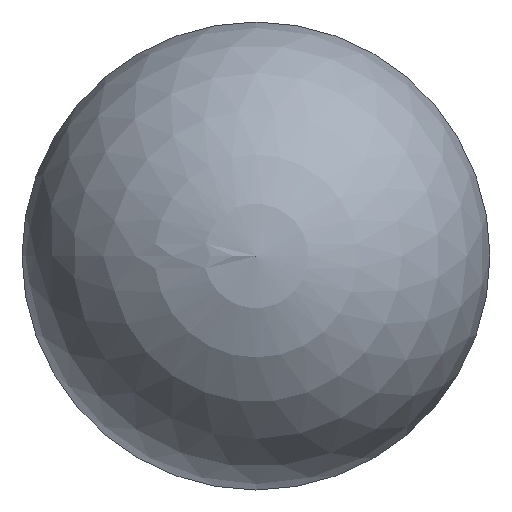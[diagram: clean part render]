
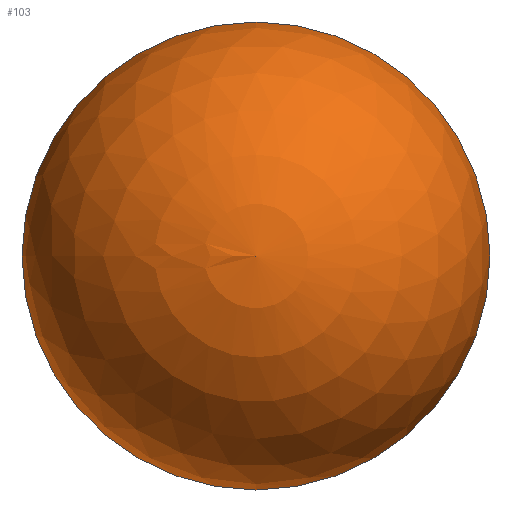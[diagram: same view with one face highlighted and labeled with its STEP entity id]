
A CAD part, left-side view. The second image highlights one B-rep face of the part: STEP entity #103.
In plain terms, the highlighted spherical face has radius 3 mm.
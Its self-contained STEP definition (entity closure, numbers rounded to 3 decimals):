
#101=SPHERICAL_SURFACE('',#134,3.);
#103=ADVANCED_FACE('',(#108),#101,.T.);
#108=FACE_OUTER_BOUND('',#110,.T.);
#110=EDGE_LOOP('',(#116));
#116=ORIENTED_EDGE('',*,*,#125,.T.);
#122=VERTEX_POINT('',#159);
#125=EDGE_CURVE('',#122,#122,#128,.T.);
#128=CIRCLE('',#133,3.);
#133=AXIS2_PLACEMENT_3D('',#158,#144,#145);
#134=AXIS2_PLACEMENT_3D('',#160,#146,#147);
#144=DIRECTION('',(-1.,0.,0.));
#145=DIRECTION('',(0.,-1.,0.));
#146=DIRECTION('',(-1.,0.,0.));
#147=DIRECTION('',(0.,1.,0.));
#158=CARTESIAN_POINT('',(7893.505,6117.77,0.));
#159=CARTESIAN_POINT('',(7893.505,6114.77,0.));
#160=CARTESIAN_POINT('',(7893.505,6117.77,0.));
